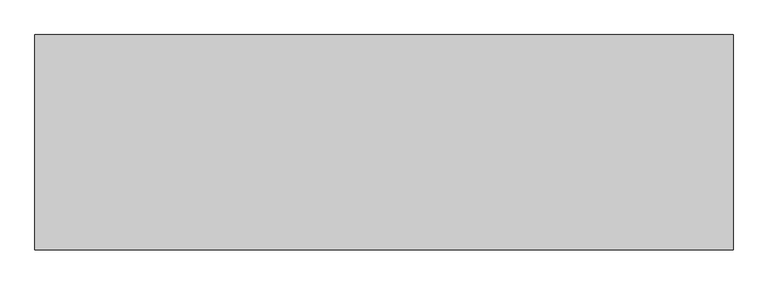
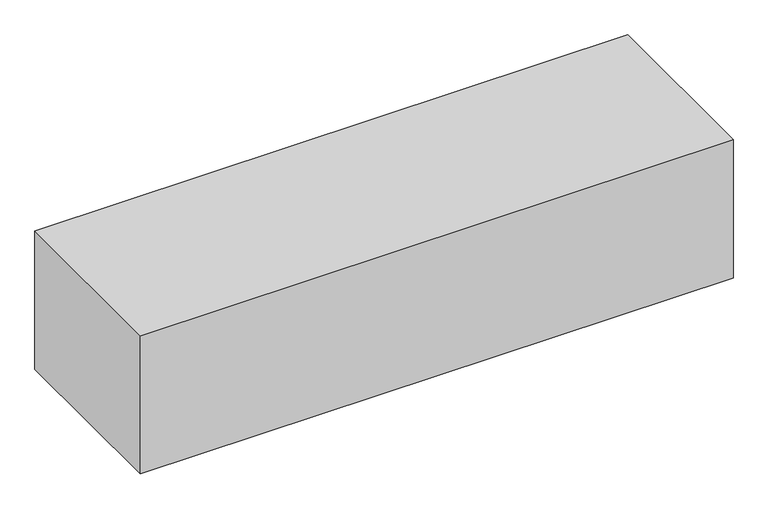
"""IFC4 building model written with IfcOpenShell, lengths in millimetres: geographic element geometry, r 低木密植 : 低木密植."""

from ifc_helpers import new_model, si_unit, origin, origin_with_axes, place, context, project, spatial, polyline, outline, extrude, source, transform, mapped, element, save


def geographic_element_d346bba0(model_context):
    return source(origin(), model_context, "Body", "SweptSolid", [
        extrude(outline(polyline([(0.0, 0.0), (0.0, 500.0), (1620.335251, 500.0), (1620.335251, 0.0), (0.0, 0.0)])), origin_with_axes(), (0.0, 0.0, 1.0), 400.0),
    ])


if __name__ == "__main__":
    model = new_model("IFC4")
    model_context = context("Model", 3, world=origin())
    ifc_project = project(units=[si_unit("LENGTHUNIT", "METRE", prefix="MILLI")], contexts=[model_context])
    site = spatial("IfcSite", under=ifc_project)
    building = spatial("IfcBuilding", under=site)
    placement = place(None, origin())
    geographic_element_shape = geographic_element_d346bba0(model_context)
    element("IfcGeographicElement", 1, ObjectType="r 低木密植 : 低木密植", at=placement, inside=building, context=model_context, shape_type="MappedRepresentation", body=[
        mapped(geographic_element_shape, transform((0.0, 0.0, 0.0), x_axis=(1.0, 0.0, 0.0), y_axis=(0.0, 1.0, 0.0), z_axis=(0.0, 0.0, 1.0))),
    ])
    save(model, "model.ifc")
